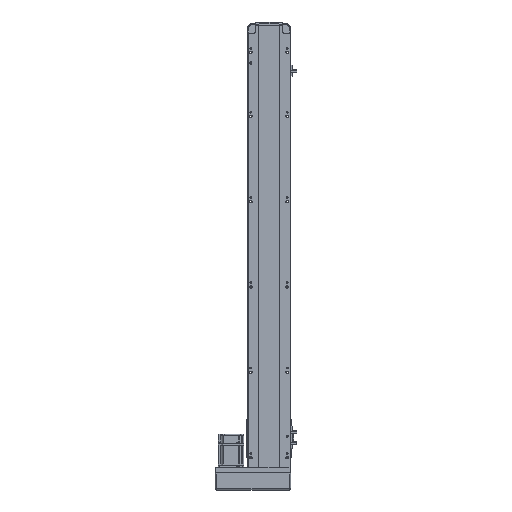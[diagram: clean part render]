
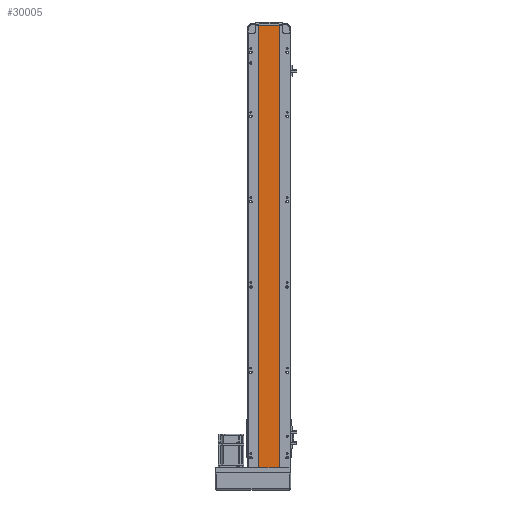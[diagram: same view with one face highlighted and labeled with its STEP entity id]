
A CAD part, front view. The second image highlights one B-rep face of the part: STEP entity #30005.
In plain terms, the highlighted planar face has unit normal (0, -1, 0).
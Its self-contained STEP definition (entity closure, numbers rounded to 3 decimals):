
#176 = EDGE_LOOP ( 'NONE', ( #22583, #18352, #58273, #29746 ) ) ;
#8805 = CARTESIAN_POINT ( 'NONE',  ( 24.5, 2., 1037. ) ) ;
#8931 = CARTESIAN_POINT ( 'NONE',  ( 24.5, 2., 1037. ) ) ;
#9178 = DIRECTION ( 'NONE',  ( 0., 1., 0. ) ) ;
#9262 = VECTOR ( 'NONE', #55857, 1000. ) ;
#9332 = LINE ( 'NONE', #60395, #45329 ) ;
#9345 = VECTOR ( 'NONE', #10117, 1000. ) ;
#9698 = CARTESIAN_POINT ( 'NONE',  ( 24.5, 2., 0. ) ) ;
#10117 = DIRECTION ( 'NONE',  ( 0., 0., -1. ) ) ;
#10710 = CARTESIAN_POINT ( 'NONE',  ( -24.5, 2., 1037. ) ) ;
#10802 = LINE ( 'NONE', #10710, #9345 ) ;
#11541 = VERTEX_POINT ( 'NONE', #9698 ) ;
#12313 = EDGE_CURVE ( 'NONE', #56991, #26938, #45249, .T. ) ;
#13322 = DIRECTION ( 'NONE',  ( 0., 0., -1. ) ) ;
#18352 = ORIENTED_EDGE ( 'NONE', *, *, #54618, .F. ) ;
#19196 = DIRECTION ( 'NONE',  ( 0., 0., 1. ) ) ;
#20495 = EDGE_CURVE ( 'NONE', #29953, #11541, #9332, .T. ) ;
#21391 = EDGE_CURVE ( 'NONE', #56991, #29953, #10802, .T. ) ;
#22583 = ORIENTED_EDGE ( 'NONE', *, *, #20495, .T. ) ;
#23660 = LINE ( 'NONE', #8805, #58117 ) ;
#26938 = VERTEX_POINT ( 'NONE', #8931 ) ;
#29746 = ORIENTED_EDGE ( 'NONE', *, *, #21391, .T. ) ;
#29953 = VERTEX_POINT ( 'NONE', #50604 ) ;
#30005 = ADVANCED_FACE ( 'NONE', ( #51456 ), #51609, .F. ) ;
#32972 = CARTESIAN_POINT ( 'NONE',  ( -24.5, 2., 1037. ) ) ;
#45249 = LINE ( 'NONE', #57886, #9262 ) ;
#45329 = VECTOR ( 'NONE', #46475, 1000. ) ;
#46475 = DIRECTION ( 'NONE',  ( 1., 0., 0. ) ) ;
#50604 = CARTESIAN_POINT ( 'NONE',  ( -24.5, 2., 0. ) ) ;
#51456 = FACE_OUTER_BOUND ( 'NONE', #176, .T. ) ;
#51609 = PLANE ( 'NONE',  #59940 ) ;
#54618 = EDGE_CURVE ( 'NONE', #26938, #11541, #23660, .T. ) ;
#55857 = DIRECTION ( 'NONE',  ( 1., 0., 0. ) ) ;
#56753 = CARTESIAN_POINT ( 'NONE',  ( 0., 2., 1037. ) ) ;
#56991 = VERTEX_POINT ( 'NONE', #32972 ) ;
#57886 = CARTESIAN_POINT ( 'NONE',  ( -24.5, 2., 1037. ) ) ;
#58117 = VECTOR ( 'NONE', #13322, 1000. ) ;
#58273 = ORIENTED_EDGE ( 'NONE', *, *, #12313, .F. ) ;
#59940 = AXIS2_PLACEMENT_3D ( 'NONE', #56753, #9178, #19196 ) ;
#60395 = CARTESIAN_POINT ( 'NONE',  ( 0., 2., 0. ) ) ;
